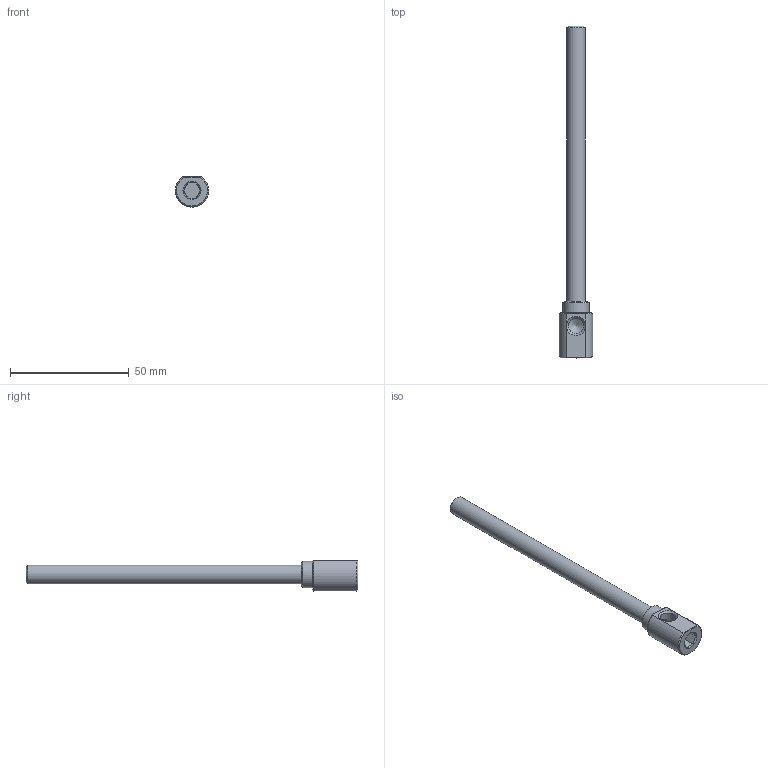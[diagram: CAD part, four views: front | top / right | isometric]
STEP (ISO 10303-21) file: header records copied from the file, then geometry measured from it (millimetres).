
FILE_DESCRIPTION(/* description */ (''),/* implementation_level */ '2;1');
FILE_NAME(/* name */ 'C:/Users/drich/Desktop/EKL16 X 5.5 v2.step',/* time_stamp */ '2019-11-18T14:36:27-06:00',/* author */ (''),/* organization */ (''),/* preprocessor_version */ 'ST-DEVELOPER v18',/* originating_system */ 'Autodesk Translation Framework v8.12.0.6',/* authorisation */ '');
FILE_SCHEMA (('AUTOMOTIVE_DESIGN { 1 0 10303 214 3 1 1 }'));
Length unit declared in the file: inch
Products named in the file (2): EKL16 X 5.5; EKL16 X 5-1/2
Assembly tree (1 placements, depth 2):
  EKL16 X 5.5
    EKL16 X 5-1/2
Bounding box: 13.97 x 139.7 x 12.7 mm (x, y, z)
Volume: 5980.8 mm3; surface area: 6290.9 mm2
Topology: 1 solids, 1 shells, 29 faces, 80 edges, 56 vertices
Faces by surface type: plane 15, cone 8, cylinder 6
Full cylindrical faces by diameter (mm): 4.75 x1, 6.566 x1, 7.62 x1, 7.828 x1, 11.1 x1
Entity records: 1016 total; most frequent: CARTESIAN_POINT 241, ORIENTED_EDGE 158, DIRECTION 148, EDGE_CURVE 79, AXIS2_PLACEMENT_3D 59, VERTEX_POINT 56, EDGE_LOOP 35, LINE 30
